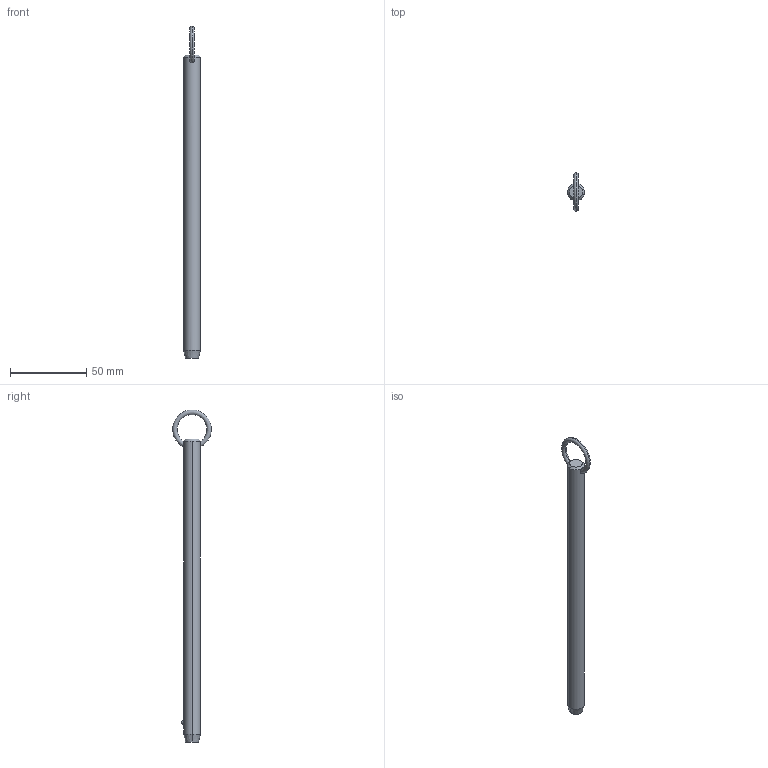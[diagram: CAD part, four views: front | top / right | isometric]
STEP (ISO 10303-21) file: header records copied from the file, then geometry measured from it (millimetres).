
FILE_DESCRIPTION (( 'STEP AP203' ), '1' );
FILE_NAME ('P1250.050-700.step', '2019-07-29T20:43:22', ( '' ), ( '' ), 'SwSTEP 2.0', 'SolidWorks 2017', '' );
FILE_SCHEMA (( 'CONFIG_CONTROL_DESIGN' ));
Length unit declared in the file: millimetre
Products named in the file (1): P1250.050-700
Bounding box: 11.1 x 25.32 x 217.35 mm (x, y, z)
Volume: 19481.7 mm3; surface area: 7571.2 mm2
Topology: 1 solids, 1 shells, 12 faces, 28 edges, 17 vertices
Faces by surface type: cone 4, torus 2, sphere 2, cylinder 2, plane 2
Entity records: 523 total; most frequent: CARTESIAN_POINT 190, DIRECTION 56, ORIENTED_EDGE 48, AXIS2_PLACEMENT_3D 25, EDGE_CURVE 24, EDGE_LOOP 15, VERTEX_POINT 15, CIRCLE 12
